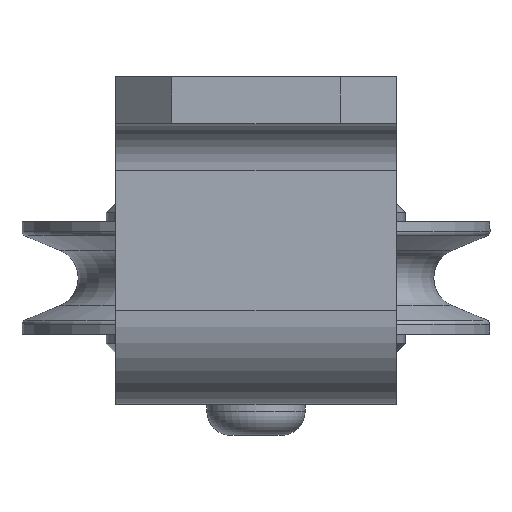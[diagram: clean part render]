
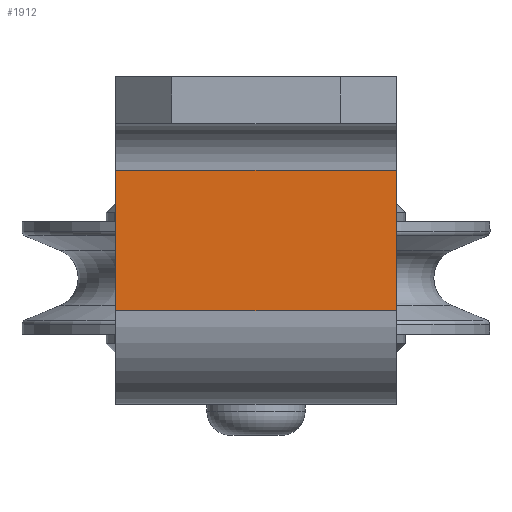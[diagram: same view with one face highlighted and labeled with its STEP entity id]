
A CAD part, left-side view. The second image highlights one B-rep face of the part: STEP entity #1912.
In plain terms, the highlighted planar face has unit normal (-1, 0, 0).
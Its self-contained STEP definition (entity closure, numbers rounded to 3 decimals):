
#314=FACE_OUTER_BOUND('',#433,.T.);
#433=EDGE_LOOP('',(#1488,#1489,#1490,#1491));
#581=LINE('',#3196,#734);
#589=LINE('',#3212,#742);
#599=LINE('',#3241,#752);
#601=LINE('',#3248,#754);
#734=VECTOR('',#2568,10.);
#742=VECTOR('',#2582,10.);
#752=VECTOR('',#2616,10.);
#754=VECTOR('',#2624,7.2);
#869=VERTEX_POINT('',#3185);
#870=VERTEX_POINT('',#3189);
#875=VERTEX_POINT('',#3210);
#882=VERTEX_POINT('',#3240);
#1079=EDGE_CURVE('',#869,#870,#581,.T.);
#1087=EDGE_CURVE('',#875,#870,#589,.T.);
#1101=EDGE_CURVE('',#875,#882,#599,.T.);
#1105=EDGE_CURVE('',#869,#882,#601,.T.);
#1488=ORIENTED_EDGE('',*,*,#1079,.T.);
#1489=ORIENTED_EDGE('',*,*,#1087,.F.);
#1490=ORIENTED_EDGE('',*,*,#1101,.T.);
#1491=ORIENTED_EDGE('',*,*,#1105,.F.);
#1825=PLANE('',#2205);
#1912=ADVANCED_FACE('',(#314),#1825,.F.);
#2205=AXIS2_PLACEMENT_3D('',#3258,#2636,#2637);
#2568=DIRECTION('',(0.,1.,0.));
#2582=DIRECTION('',(0.,0.,1.));
#2616=DIRECTION('',(0.,-1.,0.));
#2624=DIRECTION('',(0.,0.,-1.));
#2636=DIRECTION('center_axis',(1.,0.,0.));
#2637=DIRECTION('ref_axis',(0.,0.,-1.));
#3185=CARTESIAN_POINT('',(-33.5,-15.,25.));
#3189=CARTESIAN_POINT('',(-33.5,15.,25.));
#3196=CARTESIAN_POINT('',(-33.5,7.5,25.));
#3210=CARTESIAN_POINT('',(-33.5,15.,10.));
#3212=CARTESIAN_POINT('',(-33.5,15.,10.));
#3240=CARTESIAN_POINT('',(-33.5,-15.,10.));
#3241=CARTESIAN_POINT('',(-33.5,0.,10.));
#3248=CARTESIAN_POINT('',(-33.5,-15.,-12.619));
#3258=CARTESIAN_POINT('Origin',(-33.5,0.,16.845));
